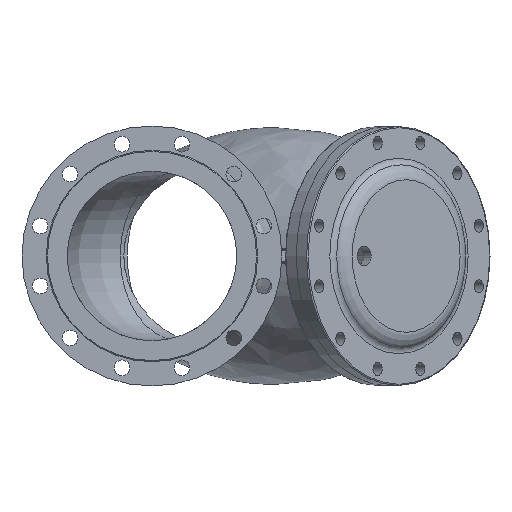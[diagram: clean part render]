
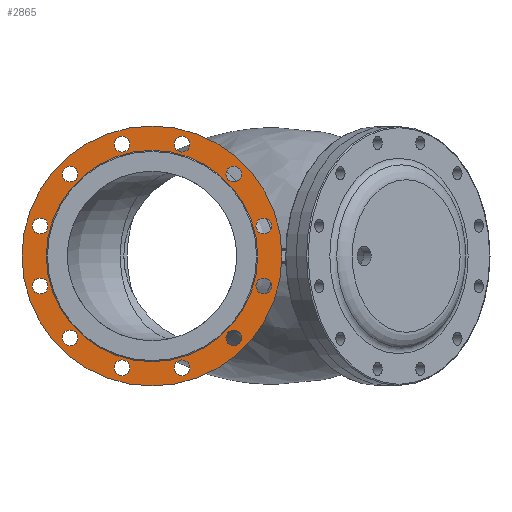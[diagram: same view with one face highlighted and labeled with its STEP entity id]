
A CAD part, left-side view. The second image highlights one B-rep face of the part: STEP entity #2865.
In plain terms, the highlighted planar face has unit normal (-1, 0, 0).
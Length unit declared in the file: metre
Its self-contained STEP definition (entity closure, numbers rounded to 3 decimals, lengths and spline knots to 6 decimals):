
#94=FACE_BOUND('',#777,.T.);
#95=FACE_BOUND('',#778,.T.);
#96=FACE_BOUND('',#779,.T.);
#97=FACE_BOUND('',#780,.T.);
#98=FACE_BOUND('',#781,.T.);
#99=FACE_BOUND('',#782,.T.);
#100=FACE_BOUND('',#783,.T.);
#101=FACE_BOUND('',#784,.T.);
#102=FACE_BOUND('',#785,.T.);
#103=FACE_BOUND('',#786,.T.);
#104=FACE_BOUND('',#787,.T.);
#105=FACE_BOUND('',#788,.T.);
#106=FACE_BOUND('',#789,.T.);
#165=PLANE('',#3218);
#554=FACE_OUTER_BOUND('',#776,.T.);
#776=EDGE_LOOP('',(#2391));
#777=EDGE_LOOP('',(#2392));
#778=EDGE_LOOP('',(#2393));
#779=EDGE_LOOP('',(#2394));
#780=EDGE_LOOP('',(#2395));
#781=EDGE_LOOP('',(#2396));
#782=EDGE_LOOP('',(#2397));
#783=EDGE_LOOP('',(#2398));
#784=EDGE_LOOP('',(#2399));
#785=EDGE_LOOP('',(#2400));
#786=EDGE_LOOP('',(#2401));
#787=EDGE_LOOP('',(#2402));
#788=EDGE_LOOP('',(#2403));
#789=EDGE_LOOP('',(#2404));
#927=CIRCLE('',#3033,0.014);
#929=CIRCLE('',#3036,0.014);
#931=CIRCLE('',#3039,0.014);
#933=CIRCLE('',#3042,0.014);
#935=CIRCLE('',#3045,0.014);
#937=CIRCLE('',#3048,0.014);
#939=CIRCLE('',#3051,0.014);
#941=CIRCLE('',#3054,0.014);
#943=CIRCLE('',#3057,0.014);
#945=CIRCLE('',#3060,0.014);
#947=CIRCLE('',#3063,0.014);
#949=CIRCLE('',#3066,0.014);
#1048=CIRCLE('',#3215,0.23);
#1050=CIRCLE('',#3219,0.187);
#1265=VERTEX_POINT('',#5742);
#1267=VERTEX_POINT('',#5748);
#1269=VERTEX_POINT('',#5754);
#1271=VERTEX_POINT('',#5760);
#1273=VERTEX_POINT('',#5766);
#1275=VERTEX_POINT('',#5772);
#1277=VERTEX_POINT('',#5778);
#1279=VERTEX_POINT('',#5784);
#1281=VERTEX_POINT('',#5790);
#1283=VERTEX_POINT('',#5796);
#1285=VERTEX_POINT('',#5802);
#1287=VERTEX_POINT('',#5808);
#1410=VERTEX_POINT('',#11379);
#1412=VERTEX_POINT('',#11387);
#1537=EDGE_CURVE('',#1265,#1265,#927,.T.);
#1540=EDGE_CURVE('',#1267,#1267,#929,.T.);
#1543=EDGE_CURVE('',#1269,#1269,#931,.T.);
#1546=EDGE_CURVE('',#1271,#1271,#933,.T.);
#1549=EDGE_CURVE('',#1273,#1273,#935,.T.);
#1552=EDGE_CURVE('',#1275,#1275,#937,.T.);
#1555=EDGE_CURVE('',#1277,#1277,#939,.T.);
#1558=EDGE_CURVE('',#1279,#1279,#941,.T.);
#1561=EDGE_CURVE('',#1281,#1281,#943,.T.);
#1564=EDGE_CURVE('',#1283,#1283,#945,.T.);
#1567=EDGE_CURVE('',#1285,#1285,#947,.T.);
#1570=EDGE_CURVE('',#1287,#1287,#949,.T.);
#1767=EDGE_CURVE('',#1410,#1410,#1048,.T.);
#1770=EDGE_CURVE('',#1412,#1412,#1050,.T.);
#2391=ORIENTED_EDGE('',*,*,#1767,.F.);
#2392=ORIENTED_EDGE('',*,*,#1770,.T.);
#2393=ORIENTED_EDGE('',*,*,#1570,.T.);
#2394=ORIENTED_EDGE('',*,*,#1567,.T.);
#2395=ORIENTED_EDGE('',*,*,#1564,.T.);
#2396=ORIENTED_EDGE('',*,*,#1561,.T.);
#2397=ORIENTED_EDGE('',*,*,#1558,.T.);
#2398=ORIENTED_EDGE('',*,*,#1555,.T.);
#2399=ORIENTED_EDGE('',*,*,#1552,.T.);
#2400=ORIENTED_EDGE('',*,*,#1549,.T.);
#2401=ORIENTED_EDGE('',*,*,#1546,.T.);
#2402=ORIENTED_EDGE('',*,*,#1543,.T.);
#2403=ORIENTED_EDGE('',*,*,#1540,.T.);
#2404=ORIENTED_EDGE('',*,*,#1537,.T.);
#2865=ADVANCED_FACE('',(#554,#94,#95,#96,#97,#98,#99,#100,#101,#102,#103,
#104,#105,#106),#165,.T.);
#3033=AXIS2_PLACEMENT_3D('',#5744,#3457,#3458);
#3036=AXIS2_PLACEMENT_3D('',#5750,#3464,#3465);
#3039=AXIS2_PLACEMENT_3D('',#5756,#3471,#3472);
#3042=AXIS2_PLACEMENT_3D('',#5762,#3478,#3479);
#3045=AXIS2_PLACEMENT_3D('',#5768,#3485,#3486);
#3048=AXIS2_PLACEMENT_3D('',#5774,#3492,#3493);
#3051=AXIS2_PLACEMENT_3D('',#5780,#3499,#3500);
#3054=AXIS2_PLACEMENT_3D('',#5786,#3506,#3507);
#3057=AXIS2_PLACEMENT_3D('',#5792,#3513,#3514);
#3060=AXIS2_PLACEMENT_3D('',#5798,#3520,#3521);
#3063=AXIS2_PLACEMENT_3D('',#5804,#3527,#3528);
#3066=AXIS2_PLACEMENT_3D('',#5810,#3534,#3535);
#3215=AXIS2_PLACEMENT_3D('',#11381,#3868,#3869);
#3218=AXIS2_PLACEMENT_3D('',#11386,#3875,#3876);
#3219=AXIS2_PLACEMENT_3D('',#11388,#3877,#3878);
#3457=DIRECTION('center_axis',(1.,0.,0.));
#3458=DIRECTION('ref_axis',(0.,0.,-1.));
#3464=DIRECTION('center_axis',(1.,0.,0.));
#3465=DIRECTION('ref_axis',(0.,0.,-1.));
#3471=DIRECTION('center_axis',(1.,0.,0.));
#3472=DIRECTION('ref_axis',(0.,0.,-1.));
#3478=DIRECTION('center_axis',(1.,0.,0.));
#3479=DIRECTION('ref_axis',(0.,0.,-1.));
#3485=DIRECTION('center_axis',(1.,0.,0.));
#3486=DIRECTION('ref_axis',(0.,0.,-1.));
#3492=DIRECTION('center_axis',(1.,0.,0.));
#3493=DIRECTION('ref_axis',(0.,0.,-1.));
#3499=DIRECTION('center_axis',(1.,0.,0.));
#3500=DIRECTION('ref_axis',(0.,0.,-1.));
#3506=DIRECTION('center_axis',(1.,0.,0.));
#3507=DIRECTION('ref_axis',(0.,0.,-1.));
#3513=DIRECTION('center_axis',(1.,0.,0.));
#3514=DIRECTION('ref_axis',(0.,0.,-1.));
#3520=DIRECTION('center_axis',(1.,0.,0.));
#3521=DIRECTION('ref_axis',(0.,0.,-1.));
#3527=DIRECTION('center_axis',(1.,0.,0.));
#3528=DIRECTION('ref_axis',(0.,0.,-1.));
#3534=DIRECTION('center_axis',(1.,0.,0.));
#3535=DIRECTION('ref_axis',(0.,0.,-1.));
#3868=DIRECTION('center_axis',(1.,0.,0.));
#3869=DIRECTION('ref_axis',(0.,0.,-1.));
#3875=DIRECTION('center_axis',(-1.,0.,0.));
#3876=DIRECTION('ref_axis',(0.,0.,1.));
#3877=DIRECTION('center_axis',(1.,0.,0.));
#3878=DIRECTION('ref_axis',(0.,0.,-1.));
#5742=CARTESIAN_POINT('',(-0.423,-0.053058,-0.212015));
#5744=CARTESIAN_POINT('Origin',(-0.423,-0.053058,-0.198015));
#5748=CARTESIAN_POINT('',(-0.423,-0.144957,-0.158957));
#5750=CARTESIAN_POINT('Origin',(-0.423,-0.144957,-0.144957));
#5754=CARTESIAN_POINT('',(-0.423,-0.198015,-0.067058));
#5756=CARTESIAN_POINT('Origin',(-0.423,-0.198015,-0.053058));
#5760=CARTESIAN_POINT('',(-0.423,-0.198015,0.039058));
#5762=CARTESIAN_POINT('Origin',(-0.423,-0.198015,0.053058));
#5766=CARTESIAN_POINT('',(-0.423,-0.144957,0.130957));
#5768=CARTESIAN_POINT('Origin',(-0.423,-0.144957,0.144957));
#5772=CARTESIAN_POINT('',(-0.423,-0.053058,0.184015));
#5774=CARTESIAN_POINT('Origin',(-0.423,-0.053058,0.198015));
#5778=CARTESIAN_POINT('',(-0.423,0.053058,0.184015));
#5780=CARTESIAN_POINT('Origin',(-0.423,0.053058,0.198015));
#5784=CARTESIAN_POINT('',(-0.423,0.144957,0.130957));
#5786=CARTESIAN_POINT('Origin',(-0.423,0.144957,0.144957));
#5790=CARTESIAN_POINT('',(-0.423,0.198015,0.039058));
#5792=CARTESIAN_POINT('Origin',(-0.423,0.198015,0.053058));
#5796=CARTESIAN_POINT('',(-0.423,0.198015,-0.067058));
#5798=CARTESIAN_POINT('Origin',(-0.423,0.198015,-0.053058));
#5802=CARTESIAN_POINT('',(-0.423,0.144957,-0.158957));
#5804=CARTESIAN_POINT('Origin',(-0.423,0.144957,-0.144957));
#5808=CARTESIAN_POINT('',(-0.423,0.053058,-0.212015));
#5810=CARTESIAN_POINT('Origin',(-0.423,0.053058,-0.198015));
#11379=CARTESIAN_POINT('',(-0.423,0.,0.23));
#11381=CARTESIAN_POINT('Origin',(-0.423,0.,0.));
#11386=CARTESIAN_POINT('Origin',(-0.423,0.187,0.));
#11387=CARTESIAN_POINT('',(-0.423,0.,0.187));
#11388=CARTESIAN_POINT('Origin',(-0.423,0.,0.));
